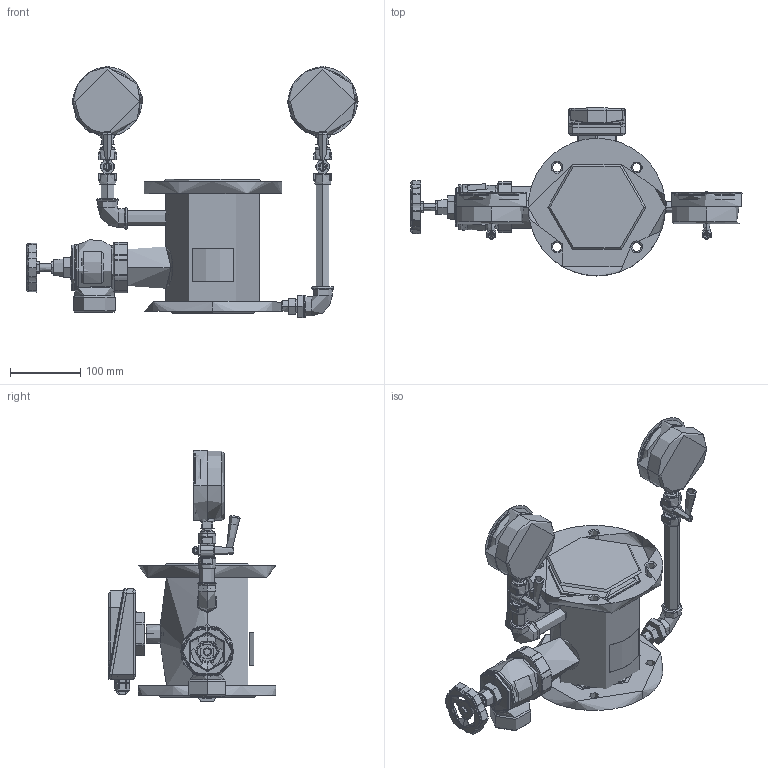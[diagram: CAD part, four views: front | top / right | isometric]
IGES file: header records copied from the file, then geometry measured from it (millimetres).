
Start section: File generated by T-FLEX CAD Version (null)
Global section: file name:           DN 80 3D.igs; native system: T-FLEX CAD; date: 211014.072336; units: millimetre
Bounding box: 471 x 238.09 x 356.5 mm (x, y, z)
Volume: 4714612.1 mm3; surface area: 559649.7 mm2
Topology: 22 solids, 31 shells, 2153 faces, 5213 edges, 3064 vertices
Faces by surface type: cylinder 781, plane 500, bspline 444, cone 192, revolution 190, sphere 46
